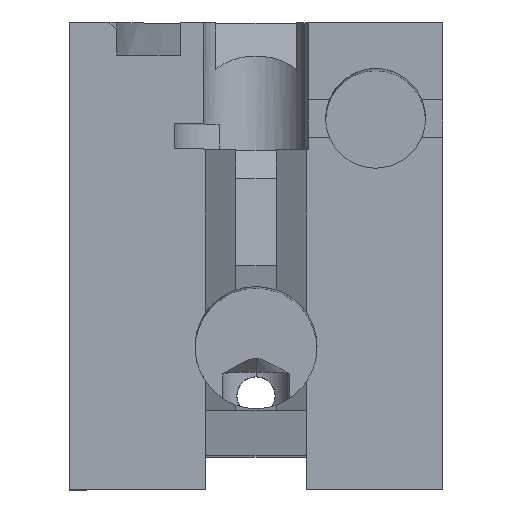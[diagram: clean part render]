
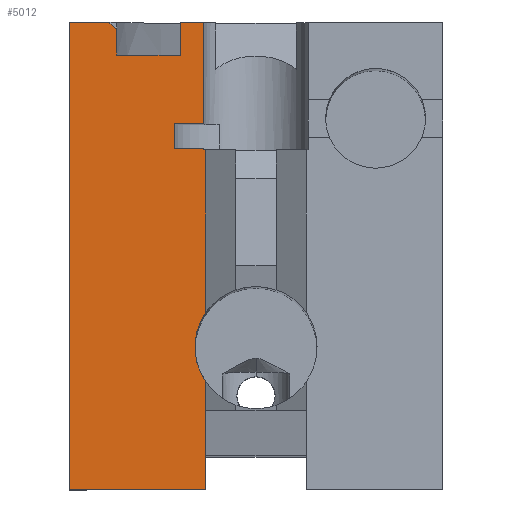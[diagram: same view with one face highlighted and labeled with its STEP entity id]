
A CAD part, top view. The second image highlights one B-rep face of the part: STEP entity #5012.
In plain terms, the highlighted planar face has unit normal (0, 0, 1).
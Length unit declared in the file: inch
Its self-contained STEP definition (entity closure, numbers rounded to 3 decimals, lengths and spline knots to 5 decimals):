
#4 = ORIENTED_EDGE ( 'NONE', *, *, #3017, .F. ) ;
#10 = CARTESIAN_POINT ( 'NONE',  ( -0.31, 1.194, 5.745 ) ) ;
#46 = CARTESIAN_POINT ( 'NONE',  ( -0.206, -0.14076, 5.745 ) ) ;
#63 = LINE ( 'NONE', #548, #4761 ) ;
#264 = DIRECTION ( 'NONE',  ( 0., 1., 0. ) ) ;
#277 = CARTESIAN_POINT ( 'NONE',  ( -0.214, 0.807, 5.745 ) ) ;
#362 = FACE_OUTER_BOUND ( 'NONE', #7081, .T. ) ;
#391 = VECTOR ( 'NONE', #1578, 39.37008 ) ;
#521 = LINE ( 'NONE', #6825, #1922 ) ;
#548 = CARTESIAN_POINT ( 'NONE',  ( -0.214, 0.807, 5.745 ) ) ;
#639 = CARTESIAN_POINT ( 'NONE',  ( 0., 0., 5.745 ) ) ;
#670 = CARTESIAN_POINT ( 'NONE',  ( -0.57, 1.194, 5.745 ) ) ;
#740 = VERTEX_POINT ( 'NONE', #4355 ) ;
#743 = CARTESIAN_POINT ( 'NONE',  ( -0.764, 1.329, 5.745 ) ) ;
#810 = LINE ( 'NONE', #1427, #6790 ) ;
#910 = DIRECTION ( 'NONE',  ( 1., 0., 0. ) ) ;
#916 = VERTEX_POINT ( 'NONE', #3835 ) ;
#1014 = VECTOR ( 'NONE', #7297, 39.37008 ) ;
#1020 = ORIENTED_EDGE ( 'NONE', *, *, #2800, .F. ) ;
#1033 = ORIENTED_EDGE ( 'NONE', *, *, #5784, .T. ) ;
#1089 = CARTESIAN_POINT ( 'NONE',  ( 0.764, -0.584, 5.745 ) ) ;
#1115 = LINE ( 'NONE', #1465, #4022 ) ;
#1174 = DIRECTION ( 'NONE',  ( 0.707, -0.707, 0. ) ) ;
#1183 = ORIENTED_EDGE ( 'NONE', *, *, #6192, .F. ) ;
#1228 = DIRECTION ( 'NONE',  ( 1., 0., 0. ) ) ;
#1253 = AXIS2_PLACEMENT_3D ( 'NONE', #6565, #7190, #3497 ) ;
#1254 = LINE ( 'NONE', #4885, #6019 ) ;
#1363 = EDGE_CURVE ( 'NONE', #2067, #4489, #2975, .T. ) ;
#1427 = CARTESIAN_POINT ( 'NONE',  ( -0.15049, 0.913, 5.745 ) ) ;
#1460 = VECTOR ( 'NONE', #2362, 39.37008 ) ;
#1465 = CARTESIAN_POINT ( 'NONE',  ( -0.214, 0.807, 5.745 ) ) ;
#1511 = CARTESIAN_POINT ( 'NONE',  ( -0.206, 0.14076, 5.745 ) ) ;
#1578 = DIRECTION ( 'NONE',  ( 0., -1., 0. ) ) ;
#1583 = CARTESIAN_POINT ( 'NONE',  ( -0.764, 1.329, 5.745 ) ) ;
#1664 = DIRECTION ( 'NONE',  ( 1., 0., 0. ) ) ;
#1692 = CARTESIAN_POINT ( 'NONE',  ( -0.206, 1.329, 5.745 ) ) ;
#1721 = EDGE_CURVE ( 'NONE', #4794, #3026, #4464, .T. ) ;
#1824 = VERTEX_POINT ( 'NONE', #46 ) ;
#1922 = VECTOR ( 'NONE', #4883, 39.37008 ) ;
#2054 = ORIENTED_EDGE ( 'NONE', *, *, #2392, .T. ) ;
#2067 = VERTEX_POINT ( 'NONE', #5341 ) ;
#2075 = EDGE_CURVE ( 'NONE', #4049, #6141, #63, .T. ) ;
#2121 = EDGE_CURVE ( 'NONE', #4036, #4049, #810, .T. ) ;
#2282 = ORIENTED_EDGE ( 'NONE', *, *, #1721, .T. ) ;
#2325 = ORIENTED_EDGE ( 'NONE', *, *, #5167, .F. ) ;
#2342 = CARTESIAN_POINT ( 'NONE',  ( -0.15049, 0.813, 5.745 ) ) ;
#2362 = DIRECTION ( 'NONE',  ( -1., 0., 0. ) ) ;
#2392 = EDGE_CURVE ( 'NONE', #6035, #3571, #521, .T. ) ;
#2631 = LINE ( 'NONE', #6687, #1014 ) ;
#2653 = VECTOR ( 'NONE', #4230, 39.37008 ) ;
#2688 = ORIENTED_EDGE ( 'NONE', *, *, #2075, .T. ) ;
#2793 = VECTOR ( 'NONE', #264, 39.37008 ) ;
#2800 = EDGE_CURVE ( 'NONE', #7496, #916, #7300, .T. ) ;
#2862 = EDGE_CURVE ( 'NONE', #7496, #4003, #3731, .T. ) ;
#2932 = CARTESIAN_POINT ( 'NONE',  ( -0.206, -0.584, 5.745 ) ) ;
#2975 = LINE ( 'NONE', #1692, #391 ) ;
#3017 = EDGE_CURVE ( 'NONE', #4036, #7686, #6160, .T. ) ;
#3026 = VERTEX_POINT ( 'NONE', #7517 ) ;
#3028 = DIRECTION ( 'NONE',  ( 0., 1., 0. ) ) ;
#3401 = LINE ( 'NONE', #743, #6699 ) ;
#3465 = ORIENTED_EDGE ( 'NONE', *, *, #1363, .F. ) ;
#3493 = ORIENTED_EDGE ( 'NONE', *, *, #3697, .F. ) ;
#3497 = DIRECTION ( 'NONE',  ( -1., 0., 0. ) ) ;
#3571 = VERTEX_POINT ( 'NONE', #1583 ) ;
#3634 = VECTOR ( 'NONE', #910, 39.37008 ) ;
#3637 = CARTESIAN_POINT ( 'NONE',  ( -0.214, 1.329, 5.745 ) ) ;
#3697 = EDGE_CURVE ( 'NONE', #7686, #3026, #4317, .T. ) ;
#3709 = LINE ( 'NONE', #10, #7001 ) ;
#3731 = LINE ( 'NONE', #670, #5101 ) ;
#3835 = CARTESIAN_POINT ( 'NONE',  ( -0.31, 1.194, 5.745 ) ) ;
#4003 = VERTEX_POINT ( 'NONE', #7621 ) ;
#4022 = VECTOR ( 'NONE', #6465, 39.37008 ) ;
#4036 = VERTEX_POINT ( 'NONE', #4043 ) ;
#4043 = CARTESIAN_POINT ( 'NONE',  ( -0.334, 0.913, 5.745 ) ) ;
#4049 = VERTEX_POINT ( 'NONE', #7129 ) ;
#4098 = LINE ( 'NONE', #1089, #5540 ) ;
#4230 = DIRECTION ( 'NONE',  ( 1., 0., 0. ) ) ;
#4317 = LINE ( 'NONE', #2342, #2653 ) ;
#4355 = CARTESIAN_POINT ( 'NONE',  ( -0.31, 1.329, 5.745 ) ) ;
#4425 = DIRECTION ( 'NONE',  ( 0., 1., 0. ) ) ;
#4446 = EDGE_CURVE ( 'NONE', #4794, #2067, #1115, .T. ) ;
#4464 = LINE ( 'NONE', #277, #2793 ) ;
#4489 = VERTEX_POINT ( 'NONE', #1511 ) ;
#4669 = VERTEX_POINT ( 'NONE', #5648 ) ;
#4761 = VECTOR ( 'NONE', #4425, 39.37008 ) ;
#4775 = LINE ( 'NONE', #5464, #1460 ) ;
#4786 = CARTESIAN_POINT ( 'NONE',  ( -0.57, 1.194, 5.745 ) ) ;
#4794 = VERTEX_POINT ( 'NONE', #7534 ) ;
#4883 = DIRECTION ( 'NONE',  ( -1., 0., 0. ) ) ;
#4885 = CARTESIAN_POINT ( 'NONE',  ( -0.57, 1.297, 5.745 ) ) ;
#4946 = DIRECTION ( 'NONE',  ( 0., 0., 1. ) ) ;
#4982 = DIRECTION ( 'NONE',  ( 0., 1., 0. ) ) ;
#5012 = ADVANCED_FACE ( 'NONE', ( #362 ), #5966, .F. ) ;
#5054 = DIRECTION ( 'NONE',  ( 0., -1., 0. ) ) ;
#5101 = VECTOR ( 'NONE', #4982, 39.37008 ) ;
#5137 = CARTESIAN_POINT ( 'NONE',  ( -0.334, 0.813, 5.745 ) ) ;
#5167 = EDGE_CURVE ( 'NONE', #1824, #5763, #2631, .T. ) ;
#5187 = ORIENTED_EDGE ( 'NONE', *, *, #4446, .F. ) ;
#5212 = EDGE_CURVE ( 'NONE', #916, #740, #3709, .T. ) ;
#5341 = CARTESIAN_POINT ( 'NONE',  ( -0.206, 0.807, 5.745 ) ) ;
#5451 = ORIENTED_EDGE ( 'NONE', *, *, #6043, .T. ) ;
#5464 = CARTESIAN_POINT ( 'NONE',  ( 0.764, 1.329, 5.745 ) ) ;
#5540 = VECTOR ( 'NONE', #1664, 39.37008 ) ;
#5648 = CARTESIAN_POINT ( 'NONE',  ( -0.764, -0.584, 5.745 ) ) ;
#5763 = VERTEX_POINT ( 'NONE', #2932 ) ;
#5784 = EDGE_CURVE ( 'NONE', #6141, #740, #4775, .T. ) ;
#5881 = EDGE_CURVE ( 'NONE', #3571, #4669, #3401, .T. ) ;
#5886 = ORIENTED_EDGE ( 'NONE', *, *, #2121, .T. ) ;
#5966 = PLANE ( 'NONE',  #1253 ) ;
#6010 = CARTESIAN_POINT ( 'NONE',  ( -0.602, 1.329, 5.745 ) ) ;
#6019 = VECTOR ( 'NONE', #1174, 39.37008 ) ;
#6026 = CIRCLE ( 'NONE', #7770, 0.2495 ) ;
#6035 = VERTEX_POINT ( 'NONE', #6010 ) ;
#6043 = EDGE_CURVE ( 'NONE', #4669, #5763, #4098, .T. ) ;
#6141 = VERTEX_POINT ( 'NONE', #3637 ) ;
#6160 = LINE ( 'NONE', #6827, #7399 ) ;
#6192 = EDGE_CURVE ( 'NONE', #4489, #1824, #6026, .T. ) ;
#6465 = DIRECTION ( 'NONE',  ( 1., 0., 0. ) ) ;
#6472 = ORIENTED_EDGE ( 'NONE', *, *, #5212, .F. ) ;
#6565 = CARTESIAN_POINT ( 'NONE',  ( 0., 0., 5.745 ) ) ;
#6566 = EDGE_CURVE ( 'NONE', #6035, #4003, #1254, .T. ) ;
#6577 = DIRECTION ( 'NONE',  ( 0., -1., 0. ) ) ;
#6604 = CARTESIAN_POINT ( 'NONE',  ( -0.57, 1.194, 5.745 ) ) ;
#6687 = CARTESIAN_POINT ( 'NONE',  ( -0.206, 1.329, 5.745 ) ) ;
#6699 = VECTOR ( 'NONE', #5054, 39.37008 ) ;
#6783 = ORIENTED_EDGE ( 'NONE', *, *, #5881, .T. ) ;
#6790 = VECTOR ( 'NONE', #7624, 39.37008 ) ;
#6825 = CARTESIAN_POINT ( 'NONE',  ( 0.764, 1.329, 5.745 ) ) ;
#6827 = CARTESIAN_POINT ( 'NONE',  ( -0.334, 0.913, 5.745 ) ) ;
#6852 = ORIENTED_EDGE ( 'NONE', *, *, #2862, .T. ) ;
#7001 = VECTOR ( 'NONE', #3028, 39.37008 ) ;
#7081 = EDGE_LOOP ( 'NONE', ( #6852, #7408, #2054, #6783, #5451, #2325, #1183, #3465, #5187, #2282, #3493, #4, #5886, #2688, #1033, #6472, #1020 ) ) ;
#7129 = CARTESIAN_POINT ( 'NONE',  ( -0.214, 0.913, 5.745 ) ) ;
#7190 = DIRECTION ( 'NONE',  ( 0., 0., -1. ) ) ;
#7297 = DIRECTION ( 'NONE',  ( 0., -1., 0. ) ) ;
#7300 = LINE ( 'NONE', #6604, #3634 ) ;
#7399 = VECTOR ( 'NONE', #6577, 39.37008 ) ;
#7408 = ORIENTED_EDGE ( 'NONE', *, *, #6566, .F. ) ;
#7496 = VERTEX_POINT ( 'NONE', #4786 ) ;
#7517 = CARTESIAN_POINT ( 'NONE',  ( -0.214, 0.813, 5.745 ) ) ;
#7534 = CARTESIAN_POINT ( 'NONE',  ( -0.214, 0.807, 5.745 ) ) ;
#7621 = CARTESIAN_POINT ( 'NONE',  ( -0.57, 1.297, 5.745 ) ) ;
#7624 = DIRECTION ( 'NONE',  ( 1., 0., 0. ) ) ;
#7686 = VERTEX_POINT ( 'NONE', #5137 ) ;
#7770 = AXIS2_PLACEMENT_3D ( 'NONE', #639, #4946, #1228 ) ;
